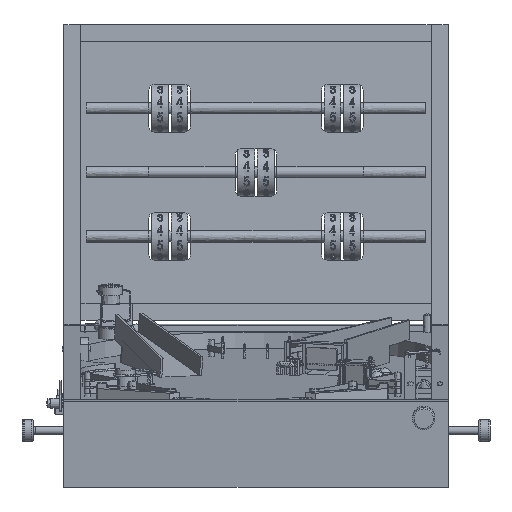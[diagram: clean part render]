
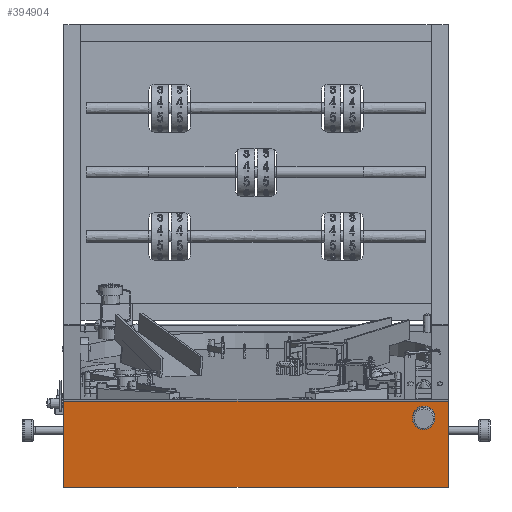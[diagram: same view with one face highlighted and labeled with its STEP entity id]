
A CAD part, front view. The second image highlights one B-rep face of the part: STEP entity #394904.
In plain terms, the highlighted free-form (B-spline) face has degree [1, 1] with [2, 2] control points.
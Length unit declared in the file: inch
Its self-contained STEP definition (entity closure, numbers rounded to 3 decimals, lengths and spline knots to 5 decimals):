
#394823 = CARTESIAN_POINT ('', (15.65048, -0.16853, 0.29201));
#394824 = VERTEX_POINT ('', #394823);
#394830 = CARTESIAN_POINT ('', (15.65048, -0.16853, 0.29201));
#394831 = CARTESIAN_POINT ('', (15.65048, -0.19683, 0.5404));
#394832 = CARTESIAN_POINT ('', (15.40048, -0.19683, 0.5404));
#394833 = CARTESIAN_POINT ('', (15.15048, -0.19683, 0.5404));
#394834 = CARTESIAN_POINT ('', (15.15048, -0.16853, 0.29201));
#394835 = CARTESIAN_POINT ('', (15.15048, -0.14023, 0.04362));
#394836 = CARTESIAN_POINT ('', (15.40048, -0.14023, 0.04362));
#394837 = CARTESIAN_POINT ('', (15.65048, -0.14023, 0.04362));
#394838 = CARTESIAN_POINT ('', (15.65048, -0.16853, 0.29201));
#394839 = (
   BOUNDED_CURVE ()
   B_SPLINE_CURVE (2, (#394830, #394831, #394832, #394833, #394834, #394835, #394836, #394837, #394838), .UNSPECIFIED., .T., .U.)
   B_SPLINE_CURVE_WITH_KNOTS ((3, 2, 2, 2, 3), (0., 0.25, 0.5, 0.75, 1.), .UNSPECIFIED.)
   CURVE ()
   GEOMETRIC_REPRESENTATION_ITEM ()
   RATIONAL_B_SPLINE_CURVE ((1., 0.707, 1., 0.707, 1., 0.707, 1., 0.707, 1.))
   REPRESENTATION_ITEM ('')
);
#394840 = EDGE_CURVE ('', #394824, #394824, #394839, .T.);
#394866 = CARTESIAN_POINT ('', (-0.75, 0.19231, -2.875));
#394867 = VERTEX_POINT ('', #394866);
#394868 = CARTESIAN_POINT ('', (16.5, 0.19231, -2.875));
#394869 = VERTEX_POINT ('', #394868);
#394870 = CARTESIAN_POINT ('', (-0.75, 0.19231, -2.875));
#394871 = CARTESIAN_POINT ('', (16.5, 0.19231, -2.875));
#394872 = B_SPLINE_CURVE_WITH_KNOTS ('', 1, (#394870, #394871), .UNSPECIFIED., .F., .U., (2, 2), (0., 17.25), .UNSPECIFIED.);
#394873 = EDGE_CURVE ('', #394867, #394869, #394872, .T.);
#394874 = ORIENTED_EDGE ('', *, *, #394873, .T.);
#394875 = CARTESIAN_POINT ('', (16.5, -0.24635, 0.97509));
#394876 = VERTEX_POINT ('', #394875);
#394877 = CARTESIAN_POINT ('', (16.5, -0.24635, 0.97509));
#394878 = CARTESIAN_POINT ('', (16.5, 0.19231, -2.875));
#394879 = B_SPLINE_CURVE_WITH_KNOTS ('', 1, (#394877, #394878), .UNSPECIFIED., .F., .U., (2, 2), (0., 1.), .UNSPECIFIED.);
#394880 = EDGE_CURVE ('', #394876, #394869, #394879, .T.);
#394881 = ORIENTED_EDGE ('', *, *, #394880, .F.);
#394882 = CARTESIAN_POINT ('', (-0.75, -0.24635, 0.97509));
#394883 = VERTEX_POINT ('', #394882);
#394884 = CARTESIAN_POINT ('', (-0.75, -0.24635, 0.97509));
#394885 = CARTESIAN_POINT ('', (16.5, -0.24635, 0.97509));
#394886 = B_SPLINE_CURVE_WITH_KNOTS ('', 1, (#394884, #394885), .UNSPECIFIED., .F., .U., (2, 2), (0., 17.25), .UNSPECIFIED.);
#394887 = EDGE_CURVE ('', #394883, #394876, #394886, .T.);
#394888 = ORIENTED_EDGE ('', *, *, #394887, .F.);
#394889 = CARTESIAN_POINT ('', (-0.75, -0.24635, 0.97509));
#394890 = CARTESIAN_POINT ('', (-0.75, 0.19231, -2.875));
#394891 = B_SPLINE_CURVE_WITH_KNOTS ('', 1, (#394889, #394890), .UNSPECIFIED., .F., .U., (2, 2), (0., 1.), .UNSPECIFIED.);
#394892 = EDGE_CURVE ('', #394883, #394867, #394891, .T.);
#394893 = ORIENTED_EDGE ('', *, *, #394892, .T.);
#394894 = EDGE_LOOP ('', (#394874, #394881, #394888, #394893));
#394895 = FACE_OUTER_BOUND ('', #394894, .T.);
#394896 = ORIENTED_EDGE ('', *, *, #394840, .F.);
#394897 = EDGE_LOOP ('', (#394896));
#394898 = FACE_BOUND ('', #394897, .T.);
#394899 = CARTESIAN_POINT ('', (-0.75, -0.24635, 0.97509));
#394900 = CARTESIAN_POINT ('', (16.5, -0.24635, 0.97509));
#394901 = CARTESIAN_POINT ('', (-0.75, 0.19231, -2.875));
#394902 = CARTESIAN_POINT ('', (16.5, 0.19231, -2.875));
#394903 = B_SPLINE_SURFACE_WITH_KNOTS ('', 1, 1, ((#394899, #394900), (#394901, #394902)), .UNSPECIFIED., .F., .F., .U., (2, 2), (2, 2), (0., 1.19231), (0., 17.25), .UNSPECIFIED.);
#394904 = ADVANCED_FACE ('', (#394895, #394898), #394903, .T.);
